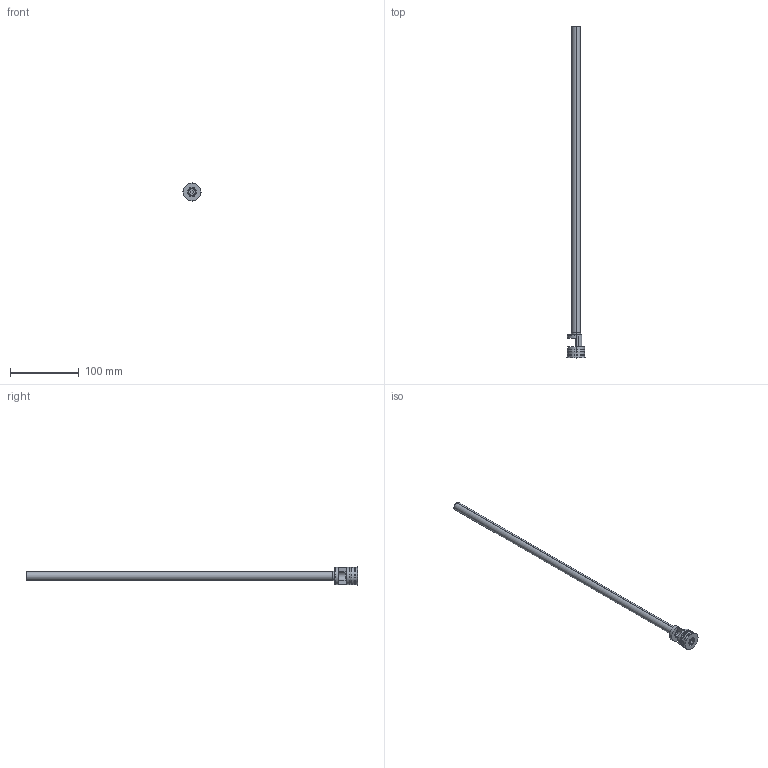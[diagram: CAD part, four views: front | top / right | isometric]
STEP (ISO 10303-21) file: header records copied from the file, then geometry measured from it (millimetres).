
FILE_DESCRIPTION (( 'STEP AP203' ), '1' );
FILE_NAME ('RF-25Fx450.STEP', '2015-11-24T14:03:47', ( 'Balzi' ), ( '' ), 'SwSTEP 2.0', 'SolidWorks 2015', '' );
FILE_SCHEMA (( 'CONFIG_CONTROL_DESIGN' ));
Length unit declared in the file: millimetre
Products named in the file (1): RF-25Fx450
Bounding box: 26.5 x 483.5 x 26.5 mm (x, y, z)
Volume: 18218.7 mm3; surface area: 37360.2 mm2
Topology: 1 solids, 1 shells, 74 faces, 170 edges, 106 vertices
Faces by surface type: plane 27, cylinder 25, cone 14, torus 8
Entity records: 2194 total; most frequent: DIRECTION 401, CARTESIAN_POINT 370, ORIENTED_EDGE 340, EDGE_CURVE 170, AXIS2_PLACEMENT_3D 161, VERTEX_POINT 106, CIRCLE 86, EDGE_LOOP 84
